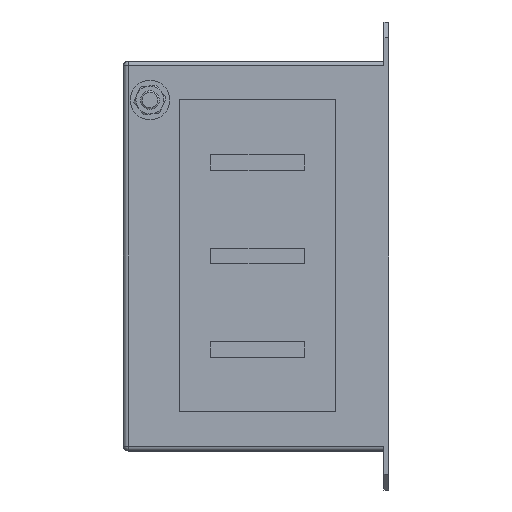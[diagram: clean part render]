
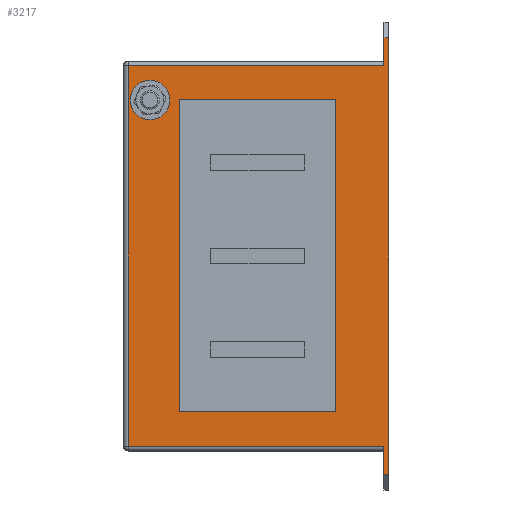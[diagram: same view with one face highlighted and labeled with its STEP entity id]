
A CAD part, left-side view. The second image highlights one B-rep face of the part: STEP entity #3217.
In plain terms, the highlighted planar face has unit normal (-1, 0, 0).
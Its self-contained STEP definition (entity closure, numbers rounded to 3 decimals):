
#76 = DIRECTION ( 'NONE',  ( 0., 0., -1. ) ) ;
#328 = CIRCLE ( 'NONE', #9223, 7. ) ;
#427 = CARTESIAN_POINT ( 'NONE',  ( 0., 167., 28. ) ) ;
#451 = DIRECTION ( 'NONE',  ( 0., 0., -1. ) ) ;
#487 = DIRECTION ( 'NONE',  ( 1., 0., 0. ) ) ;
#508 = VERTEX_POINT ( 'NONE', #5732 ) ;
#532 = EDGE_CURVE ( 'NONE', #4259, #2262, #3813, .T. ) ;
#549 = DIRECTION ( 'NONE',  ( 0., 1., 0. ) ) ;
#564 = EDGE_CURVE ( 'NONE', #2504, #8639, #7562, .T. ) ;
#572 = VECTOR ( 'NONE', #2286, 1000. ) ;
#647 = LINE ( 'NONE', #3711, #6261 ) ;
#803 = ORIENTED_EDGE ( 'NONE', *, *, #8208, .T. ) ;
#920 = EDGE_CURVE ( 'NONE', #508, #6200, #6461, .T. ) ;
#925 = VERTEX_POINT ( 'NONE', #5661 ) ;
#958 = LINE ( 'NONE', #5282, #5441 ) ;
#1045 = ORIENTED_EDGE ( 'NONE', *, *, #4161, .T. ) ;
#1253 = CARTESIAN_POINT ( 'NONE',  ( 0., 0., 290. ) ) ;
#1528 = EDGE_LOOP ( 'NONE', ( #9200, #1859 ) ) ;
#1564 = VECTOR ( 'NONE', #8792, 1000. ) ;
#1855 = CARTESIAN_POINT ( 'NONE',  ( 0., 153., 257. ) ) ;
#1859 = ORIENTED_EDGE ( 'NONE', *, *, #5584, .T. ) ;
#1944 = FACE_OUTER_BOUND ( 'NONE', #2477, .T. ) ;
#1966 = VERTEX_POINT ( 'NONE', #7847 ) ;
#2159 = LINE ( 'NONE', #3679, #572 ) ;
#2262 = VERTEX_POINT ( 'NONE', #427 ) ;
#2286 = DIRECTION ( 'NONE',  ( 0., 1., 0. ) ) ;
#2477 = EDGE_LOOP ( 'NONE', ( #2853, #8258, #803, #5699, #1045, #2811, #6118, #6185 ) ) ;
#2490 = DIRECTION ( 'NONE',  ( 0., -1., 0. ) ) ;
#2504 = VERTEX_POINT ( 'NONE', #8449 ) ;
#2516 = ORIENTED_EDGE ( 'NONE', *, *, #564, .T. ) ;
#2636 = CARTESIAN_POINT ( 'NONE',  ( 0., 3., 28. ) ) ;
#2680 = AXIS2_PLACEMENT_3D ( 'NONE', #4079, #9015, #4785 ) ;
#2811 = ORIENTED_EDGE ( 'NONE', *, *, #6724, .F. ) ;
#2853 = ORIENTED_EDGE ( 'NONE', *, *, #8902, .T. ) ;
#2932 = ORIENTED_EDGE ( 'NONE', *, *, #7484, .T. ) ;
#3104 = CARTESIAN_POINT ( 'NONE',  ( 0., 167., 272. ) ) ;
#3217 = ADVANCED_FACE ( 'NONE', ( #3630, #3524, #1944 ), #9031, .F. ) ;
#3347 = DIRECTION ( 'NONE',  ( 0., 0., -1. ) ) ;
#3371 = CARTESIAN_POINT ( 'NONE',  ( 0., 0., 0. ) ) ;
#3524 = FACE_BOUND ( 'NONE', #1528, .T. ) ;
#3560 = VECTOR ( 'NONE', #9065, 1000. ) ;
#3630 = FACE_BOUND ( 'NONE', #8546, .T. ) ;
#3679 = CARTESIAN_POINT ( 'NONE',  ( 0., 3., 290. ) ) ;
#3704 = DIRECTION ( 'NONE',  ( 0., 0., 1. ) ) ;
#3711 = CARTESIAN_POINT ( 'NONE',  ( 0., 34., 0. ) ) ;
#3726 = ORIENTED_EDGE ( 'NONE', *, *, #4011, .T. ) ;
#3813 = LINE ( 'NONE', #9256, #7121 ) ;
#3952 = CARTESIAN_POINT ( 'NONE',  ( 0., 3., 10. ) ) ;
#3957 = VERTEX_POINT ( 'NONE', #2636 ) ;
#4011 = EDGE_CURVE ( 'NONE', #8639, #925, #7059, .T. ) ;
#4079 = CARTESIAN_POINT ( 'NONE',  ( 0., 153., 250. ) ) ;
#4129 = VECTOR ( 'NONE', #3704, 1000. ) ;
#4161 = EDGE_CURVE ( 'NONE', #6200, #6864, #2159, .T. ) ;
#4259 = VERTEX_POINT ( 'NONE', #3104 ) ;
#4517 = AXIS2_PLACEMENT_3D ( 'NONE', #4772, #487, #451 ) ;
#4570 = VECTOR ( 'NONE', #6017, 1000. ) ;
#4772 = CARTESIAN_POINT ( 'NONE',  ( 0., 3., 0. ) ) ;
#4785 = DIRECTION ( 'NONE',  ( 0., 0., -1. ) ) ;
#4808 = VERTEX_POINT ( 'NONE', #8171 ) ;
#4822 = DIRECTION ( 'NONE',  ( 0., 0., 1. ) ) ;
#4831 = CARTESIAN_POINT ( 'NONE',  ( 0., 3., 28. ) ) ;
#4908 = EDGE_CURVE ( 'NONE', #7784, #8868, #7369, .T. ) ;
#4927 = DIRECTION ( 'NONE',  ( 0., 0., 1. ) ) ;
#4980 = CARTESIAN_POINT ( 'NONE',  ( 0., 134., 0. ) ) ;
#5195 = VECTOR ( 'NONE', #8445, 1000. ) ;
#5230 = VECTOR ( 'NONE', #549, 1000. ) ;
#5251 = VECTOR ( 'NONE', #4927, 1000. ) ;
#5282 = CARTESIAN_POINT ( 'NONE',  ( 0., 3., 10. ) ) ;
#5324 = CARTESIAN_POINT ( 'NONE',  ( 0., 3., 250. ) ) ;
#5441 = VECTOR ( 'NONE', #2490, 1000. ) ;
#5584 = EDGE_CURVE ( 'NONE', #8868, #7784, #328, .T. ) ;
#5661 = CARTESIAN_POINT ( 'NONE',  ( 0., 134., 250. ) ) ;
#5699 = ORIENTED_EDGE ( 'NONE', *, *, #920, .T. ) ;
#5707 = CARTESIAN_POINT ( 'NONE',  ( 0., 3., 0. ) ) ;
#5732 = CARTESIAN_POINT ( 'NONE',  ( 0., 0., 10. ) ) ;
#5769 = DIRECTION ( 'NONE',  ( 0., 0., -1. ) ) ;
#5866 = EDGE_CURVE ( 'NONE', #4808, #2504, #647, .T. ) ;
#5950 = CARTESIAN_POINT ( 'NONE',  ( 0., 3., 50. ) ) ;
#6017 = DIRECTION ( 'NONE',  ( 0., -1., 0. ) ) ;
#6118 = ORIENTED_EDGE ( 'NONE', *, *, #8883, .T. ) ;
#6185 = ORIENTED_EDGE ( 'NONE', *, *, #532, .T. ) ;
#6198 = DIRECTION ( 'NONE',  ( 1., 0., 0. ) ) ;
#6200 = VERTEX_POINT ( 'NONE', #1253 ) ;
#6261 = VECTOR ( 'NONE', #76, 1000. ) ;
#6303 = CARTESIAN_POINT ( 'NONE',  ( 0., 153., 243. ) ) ;
#6461 = LINE ( 'NONE', #3371, #6565 ) ;
#6565 = VECTOR ( 'NONE', #4822, 1000. ) ;
#6724 = EDGE_CURVE ( 'NONE', #1966, #6864, #9008, .T. ) ;
#6864 = VERTEX_POINT ( 'NONE', #7915 ) ;
#7059 = LINE ( 'NONE', #4980, #5195 ) ;
#7121 = VECTOR ( 'NONE', #5769, 1000. ) ;
#7207 = CARTESIAN_POINT ( 'NONE',  ( 0., 134., 50. ) ) ;
#7369 = CIRCLE ( 'NONE', #2680, 7. ) ;
#7484 = EDGE_CURVE ( 'NONE', #925, #4808, #8336, .T. ) ;
#7511 = ORIENTED_EDGE ( 'NONE', *, *, #5866, .T. ) ;
#7562 = LINE ( 'NONE', #5950, #1564 ) ;
#7566 = CARTESIAN_POINT ( 'NONE',  ( 0., 153., 250. ) ) ;
#7784 = VERTEX_POINT ( 'NONE', #6303 ) ;
#7847 = CARTESIAN_POINT ( 'NONE',  ( 0., 3., 272. ) ) ;
#7873 = CARTESIAN_POINT ( 'NONE',  ( 0., 3., 0. ) ) ;
#7915 = CARTESIAN_POINT ( 'NONE',  ( 0., 3., 290. ) ) ;
#7956 = EDGE_CURVE ( 'NONE', #8081, #3957, #8091, .T. ) ;
#8081 = VERTEX_POINT ( 'NONE', #3952 ) ;
#8091 = LINE ( 'NONE', #7873, #4129 ) ;
#8171 = CARTESIAN_POINT ( 'NONE',  ( 0., 34., 250. ) ) ;
#8208 = EDGE_CURVE ( 'NONE', #8081, #508, #958, .T. ) ;
#8258 = ORIENTED_EDGE ( 'NONE', *, *, #7956, .F. ) ;
#8294 = CARTESIAN_POINT ( 'NONE',  ( 0., 3., 272. ) ) ;
#8328 = LINE ( 'NONE', #8294, #5230 ) ;
#8336 = LINE ( 'NONE', #5324, #4570 ) ;
#8445 = DIRECTION ( 'NONE',  ( 0., 0., 1. ) ) ;
#8449 = CARTESIAN_POINT ( 'NONE',  ( 0., 34., 50. ) ) ;
#8539 = LINE ( 'NONE', #4831, #3560 ) ;
#8546 = EDGE_LOOP ( 'NONE', ( #3726, #2932, #7511, #2516 ) ) ;
#8639 = VERTEX_POINT ( 'NONE', #7207 ) ;
#8792 = DIRECTION ( 'NONE',  ( 0., 1., 0. ) ) ;
#8868 = VERTEX_POINT ( 'NONE', #1855 ) ;
#8883 = EDGE_CURVE ( 'NONE', #1966, #4259, #8328, .T. ) ;
#8902 = EDGE_CURVE ( 'NONE', #2262, #3957, #8539, .T. ) ;
#9008 = LINE ( 'NONE', #5707, #5251 ) ;
#9015 = DIRECTION ( 'NONE',  ( 1., 0., 0. ) ) ;
#9031 = PLANE ( 'NONE',  #4517 ) ;
#9065 = DIRECTION ( 'NONE',  ( 0., -1., 0. ) ) ;
#9200 = ORIENTED_EDGE ( 'NONE', *, *, #4908, .T. ) ;
#9223 = AXIS2_PLACEMENT_3D ( 'NONE', #7566, #6198, #3347 ) ;
#9256 = CARTESIAN_POINT ( 'NONE',  ( 0., 167., 0. ) ) ;
